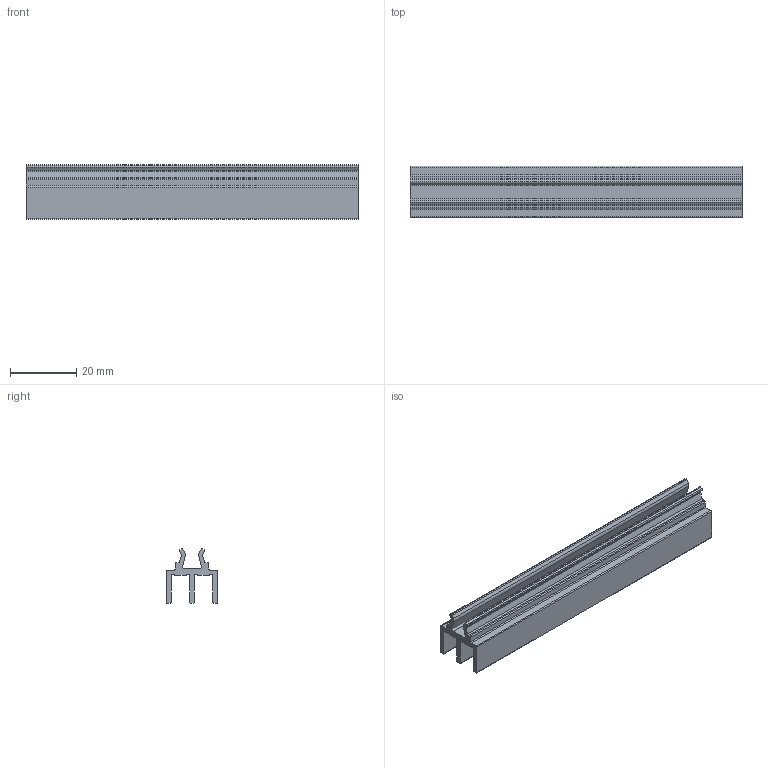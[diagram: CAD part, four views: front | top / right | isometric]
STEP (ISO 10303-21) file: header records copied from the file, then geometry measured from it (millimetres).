
FILE_DESCRIPTION(('STEP AP214'),'1');
FILE_NAME('SG4U-.stp','2017-07-21T06:35:58',(' '),(' '),'Spatial InterOp 3D',' ',' ');
FILE_SCHEMA(('automotive_design'));
Length unit declared in the file: millimetre
Products named in the file (1): SG4U-
Bounding box: 100 x 15.5 x 16.4 mm (x, y, z)
Volume: 8357.2 mm3; surface area: 11036.2 mm2
Topology: 1 solids, 1 shells, 58 faces, 168 edges, 112 vertices
Faces by surface type: plane 30, cylinder 28
Entity records: 2408 total; most frequent: DIRECTION 342, CARTESIAN_POINT 339, ORIENTED_EDGE 336, EDGE_CURVE 168, AXIS2_PLACEMENT_3D 115, VERTEX_POINT 112, LINE 112, VECTOR 112
